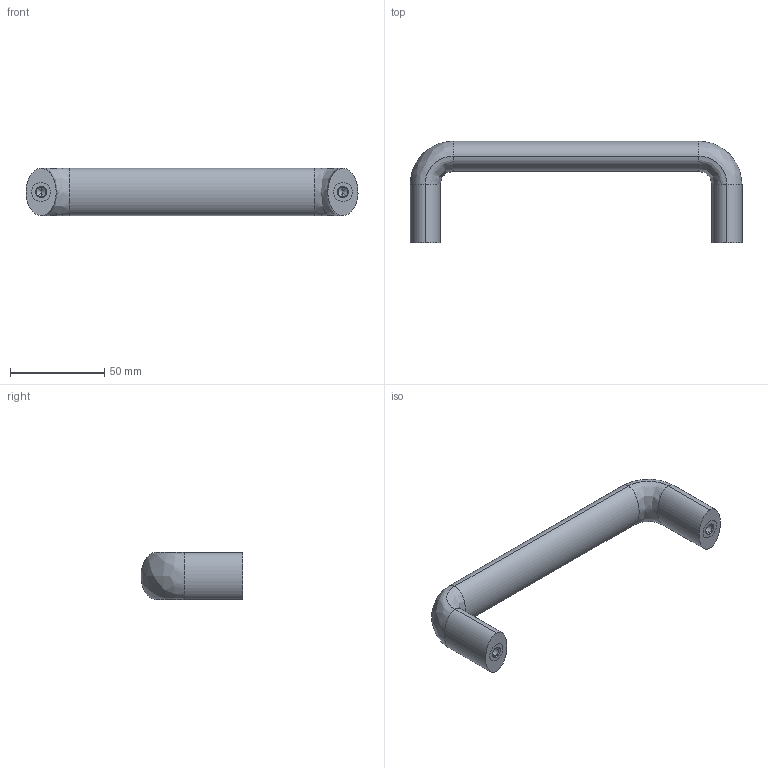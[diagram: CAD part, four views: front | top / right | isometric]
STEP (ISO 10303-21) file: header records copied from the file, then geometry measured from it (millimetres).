
FILE_DESCRIPTION (( 'STEP AP203' ), '1' );
FILE_NAME ('Wiberger-gn564_160-m6.step', '2013-12-16T10:52:55', ( 'Magnus' ), ( 'Wiberger' ), 'SwSTEP 2.0', 'SolidWorks 2011', '' );
FILE_SCHEMA (( 'CONFIG_CONTROL_DESIGN' ));
Length unit declared in the file: millimetre
Products named in the file (1): Wiberger-gn564_160-m6
Bounding box: 175.97 x 53.98 x 25 mm (x, y, z)
Volume: 74706.9 mm3; surface area: 31550.9 mm2
Topology: 2 solids, 2 shells, 46 faces, 102 edges, 58 vertices
Faces by surface type: cylinder 16, bspline 10, torus 8, cone 8, plane 4
Entity records: 1383 total; most frequent: CARTESIAN_POINT 341, DIRECTION 216, ORIENTED_EDGE 196, EDGE_CURVE 98, AXIS2_PLACEMENT_3D 93, VERTEX_POINT 58, CIRCLE 56, EDGE_LOOP 50
